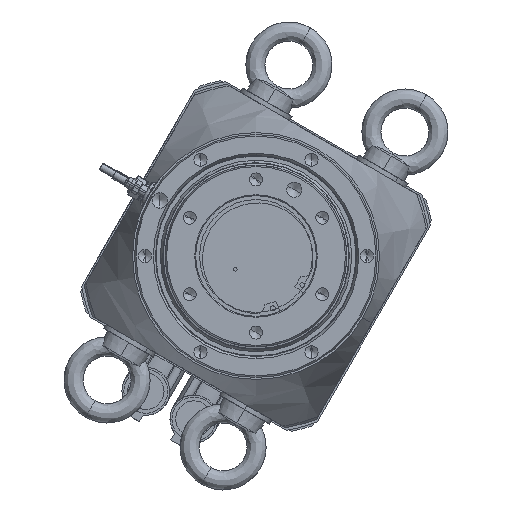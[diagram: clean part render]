
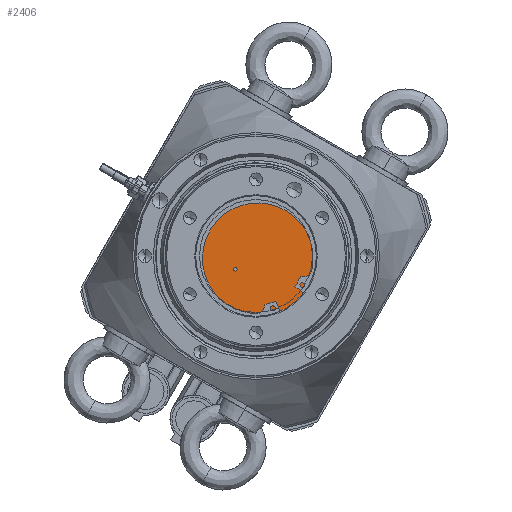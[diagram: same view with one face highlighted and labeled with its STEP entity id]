
A CAD part, front view. The second image highlights one B-rep face of the part: STEP entity #2406.
In plain terms, the highlighted planar face has unit normal (0, -1, 0).
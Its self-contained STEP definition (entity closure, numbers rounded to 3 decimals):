
#445 = VERTEX_POINT ( 'NONE', #32861 ) ;
#1369 = ORIENTED_EDGE ( 'NONE', *, *, #32609, .F. ) ;
#2406 = ADVANCED_FACE ( 'NONE', ( #37488, #34421 ), #18028, .F. ) ;
#6362 = AXIS2_PLACEMENT_3D ( 'NONE', #39252, #15697, #42582 ) ;
#7706 = DIRECTION ( 'NONE',  ( 1., 0., 0. ) ) ;
#7960 = DIRECTION ( 'NONE',  ( 1., 0., 0. ) ) ;
#8603 = EDGE_CURVE ( 'NONE', #18949, #40450, #46789, .T. ) ;
#9467 = ORIENTED_EDGE ( 'NONE', *, *, #8603, .T. ) ;
#9873 = DIRECTION ( 'NONE',  ( 0., 1., 0. ) ) ;
#10021 = CARTESIAN_POINT ( 'NONE',  ( 71.219, -247.879, 97.194 ) ) ;
#11765 = DIRECTION ( 'NONE',  ( 0., 1., 0. ) ) ;
#14175 = EDGE_CURVE ( 'NONE', #40450, #18949, #43438, .T. ) ;
#15697 = DIRECTION ( 'NONE',  ( 0., 1., 0. ) ) ;
#15992 = CIRCLE ( 'NONE', #16786, 31.5 ) ;
#16685 = EDGE_CURVE ( 'NONE', #445, #42318, #23036, .T. ) ;
#16786 = AXIS2_PLACEMENT_3D ( 'NONE', #50211, #11765, #7706 ) ;
#18028 = PLANE ( 'NONE',  #6362 ) ;
#18949 = VERTEX_POINT ( 'NONE', #31231 ) ;
#21425 = AXIS2_PLACEMENT_3D ( 'NONE', #10021, #35104, #7960 ) ;
#23036 = CIRCLE ( 'NONE', #21425, 31.5 ) ;
#23948 = AXIS2_PLACEMENT_3D ( 'NONE', #29146, #9873, #45696 ) ;
#25640 = EDGE_LOOP ( 'NONE', ( #1369, #34282 ) ) ;
#29146 = CARTESIAN_POINT ( 'NONE',  ( 60.392, -247.879, 90.253 ) ) ;
#31231 = CARTESIAN_POINT ( 'NONE',  ( 61.392, -247.879, 90.253 ) ) ;
#32609 = EDGE_CURVE ( 'NONE', #42318, #445, #15992, .T. ) ;
#32861 = CARTESIAN_POINT ( 'NONE',  ( 102.719, -247.879, 97.194 ) ) ;
#32979 = DIRECTION ( 'NONE',  ( 1., 0., 0. ) ) ;
#33995 = DIRECTION ( 'NONE',  ( 0., 1., 0. ) ) ;
#34282 = ORIENTED_EDGE ( 'NONE', *, *, #16685, .F. ) ;
#34421 = FACE_BOUND ( 'NONE', #43811, .T. ) ;
#35104 = DIRECTION ( 'NONE',  ( 0., 1., 0. ) ) ;
#37135 = CARTESIAN_POINT ( 'NONE',  ( 59.392, -247.879, 90.253 ) ) ;
#37488 = FACE_OUTER_BOUND ( 'NONE', #25640, .T. ) ;
#37804 = CARTESIAN_POINT ( 'NONE',  ( 60.392, -247.879, 90.253 ) ) ;
#38303 = ORIENTED_EDGE ( 'NONE', *, *, #14175, .T. ) ;
#39252 = CARTESIAN_POINT ( 'NONE',  ( 71.219, -247.879, 97.194 ) ) ;
#40450 = VERTEX_POINT ( 'NONE', #37135 ) ;
#42318 = VERTEX_POINT ( 'NONE', #49983 ) ;
#42582 = DIRECTION ( 'NONE',  ( 1., 0., 0. ) ) ;
#42694 = AXIS2_PLACEMENT_3D ( 'NONE', #37804, #33995, #32979 ) ;
#43438 = CIRCLE ( 'NONE', #23948, 1. ) ;
#43811 = EDGE_LOOP ( 'NONE', ( #38303, #9467 ) ) ;
#45696 = DIRECTION ( 'NONE',  ( 1., 0., 0. ) ) ;
#46789 = CIRCLE ( 'NONE', #42694, 1. ) ;
#49983 = CARTESIAN_POINT ( 'NONE',  ( 39.719, -247.879, 97.194 ) ) ;
#50211 = CARTESIAN_POINT ( 'NONE',  ( 71.219, -247.879, 97.194 ) ) ;
